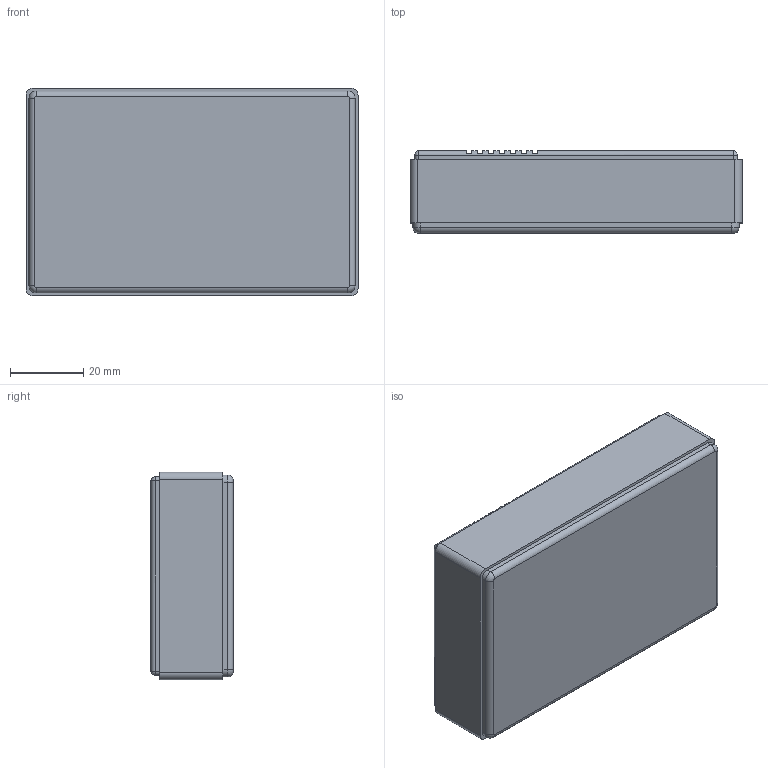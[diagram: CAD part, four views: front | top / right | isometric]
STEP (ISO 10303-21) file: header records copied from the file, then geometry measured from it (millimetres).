
FILE_DESCRIPTION (( 'STEP AP214' ), '1' );
FILE_NAME ('Conjunto PP25.STEP', '2019-10-23T12:55:48', ( 'aaa' ), ( '' ), 'SwSTEP 2.0', 'SolidWorks 2014', '' );
FILE_SCHEMA (( 'AUTOMOTIVE_DESIGN' ));
Length unit declared in the file: millimetre
Products named in the file (5): Conjunto PP25; Cos PP25; Tapa PP25; Cargol 2,2x9,3 PP25; Cargol 2,1x6,5 PP25
Assembly tree (5 placements, depth 2):
  Conjunto PP25
    Cos PP25
    Tapa PP25
    Cargol 2,2x9,3 PP25
    Cargol 2,1x6,5 PP25  x2
Bounding box: 90.4 x 22.4 x 56.6 mm (x, y, z)
Volume: 30754.2 mm3; surface area: 33908.8 mm2
Topology: 5 solids, 5 shells, 344 faces, 838 edges, 495 vertices
Faces by surface type: cone 152, plane 130, cylinder 54, torus 4, bspline 4
Entity records: 8934 total; most frequent: CARTESIAN_POINT 1644, DIRECTION 1576, ORIENTED_EDGE 1440, EDGE_CURVE 720, AXIS2_PLACEMENT_3D 566, LINE 444, VECTOR 444, VERTEX_POINT 434
